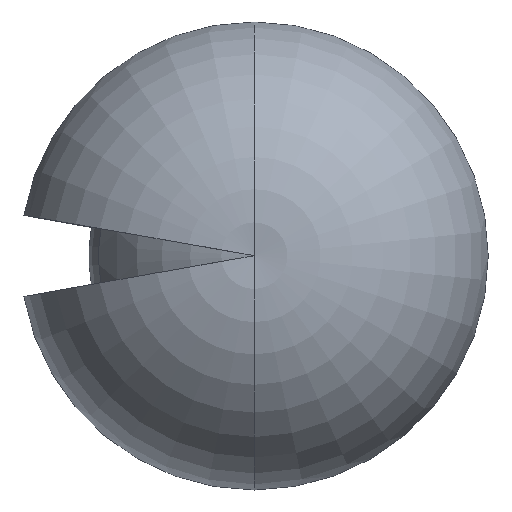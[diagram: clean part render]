
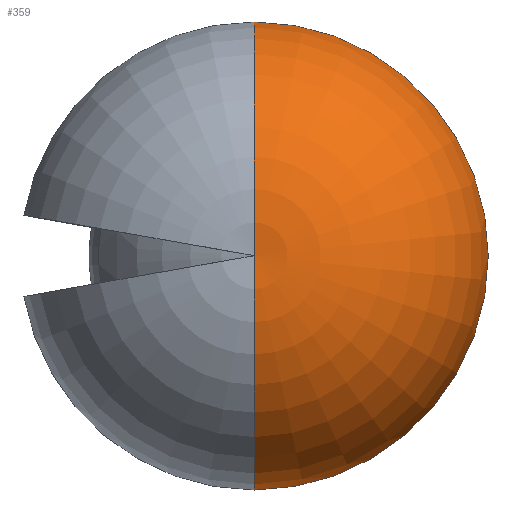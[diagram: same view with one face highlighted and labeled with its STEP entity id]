
A CAD part, top view. The second image highlights one B-rep face of the part: STEP entity #359.
In plain terms, the highlighted toroidal (fillet/blend) face has major radius 320 mm and minor radius 2185.02 mm.
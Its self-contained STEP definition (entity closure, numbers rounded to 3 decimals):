
#7 = DIRECTION ( 'NONE',  ( 0., 1., 0. ) ) ;
#17 = VERTEX_POINT ( 'NONE', #429 ) ;
#52 = CARTESIAN_POINT ( 'NONE',  ( 0., 2496.71, 970.437 ) ) ;
#65 = TOROIDAL_SURFACE ( 'NONE', #427, 320., 2185.024 ) ;
#80 = FACE_OUTER_BOUND ( 'NONE', #96, .T. ) ;
#96 = EDGE_LOOP ( 'NONE', ( #277, #224, #449 ) ) ;
#115 = AXIS2_PLACEMENT_3D ( 'NONE', #466, #560, #473 ) ;
#157 = EDGE_CURVE ( 'NONE', #495, #313, #391, .T. ) ;
#161 = AXIS2_PLACEMENT_3D ( 'NONE', #171, #217, #265 ) ;
#171 = CARTESIAN_POINT ( 'NONE',  ( 0., 0., 970.437 ) ) ;
#217 = DIRECTION ( 'NONE',  ( 0., 0., -1. ) ) ;
#224 = ORIENTED_EDGE ( 'NONE', *, *, #571, .T. ) ;
#245 = CARTESIAN_POINT ( 'NONE',  ( 0., -320., 780. ) ) ;
#262 = CIRCLE ( 'NONE', #284, 2185.024 ) ;
#265 = DIRECTION ( 'NONE',  ( 0., 1., 0. ) ) ;
#274 = DIRECTION ( 'NONE',  ( 0., 0., -1. ) ) ;
#277 = ORIENTED_EDGE ( 'NONE', *, *, #157, .F. ) ;
#284 = AXIS2_PLACEMENT_3D ( 'NONE', #245, #430, #7 ) ;
#313 = VERTEX_POINT ( 'NONE', #52 ) ;
#325 = CARTESIAN_POINT ( 'NONE',  ( 0., 0., 780. ) ) ;
#359 = ADVANCED_FACE ( 'NONE', ( #80 ), #65, .T. ) ;
#361 = CIRCLE ( 'NONE', #161, 2496.71 ) ;
#373 = EDGE_CURVE ( 'NONE', #313, #17, #361, .T. ) ;
#391 = CIRCLE ( 'NONE', #115, 2185.024 ) ;
#427 = AXIS2_PLACEMENT_3D ( 'NONE', #325, #274, #599 ) ;
#429 = CARTESIAN_POINT ( 'NONE',  ( 0., -2496.71, 970.437 ) ) ;
#430 = DIRECTION ( 'NONE',  ( 1., 0., 0. ) ) ;
#434 = CARTESIAN_POINT ( 'NONE',  ( 0., 0., 2941.465 ) ) ;
#449 = ORIENTED_EDGE ( 'NONE', *, *, #373, .F. ) ;
#466 = CARTESIAN_POINT ( 'NONE',  ( 0., 320., 780. ) ) ;
#473 = DIRECTION ( 'NONE',  ( 0., 0., 1. ) ) ;
#495 = VERTEX_POINT ( 'NONE', #434 ) ;
#560 = DIRECTION ( 'NONE',  ( -1., 0., 0. ) ) ;
#571 = EDGE_CURVE ( 'NONE', #495, #17, #262, .T. ) ;
#599 = DIRECTION ( 'NONE',  ( 0., 1., 0. ) ) ;
